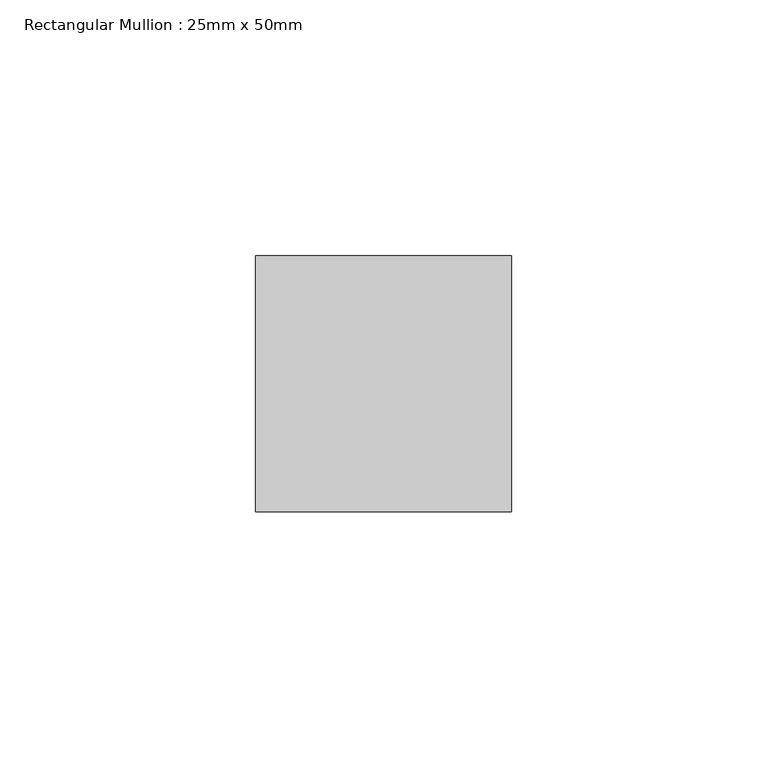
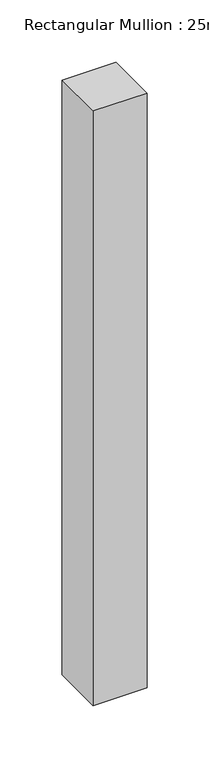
"""IFC4 building model written with IfcOpenShell, lengths in millimetres: member geometry, Rectangular Mullion : 25mm x 50mm."""

import ifcopenshell
import ifcopenshell.guid

model = None  # the IFC model being written
_history = None  # IfcOwnerHistory: only IFC2X3 demands one
_inside = {}  # id of a spatial element -> (the spatial element, [elements in it])
_under = {}  # id of a project, library or spatial element -> (it, [spatial elements below it])
_declared = {}  # id of a project -> (the project, [libraries it declares])
_typed = {}  # id of a type object -> (the type object, [elements of that type])
_made_of = {}  # id of a material, layer set ... -> (it, [elements and type objects made of it])


def new_model(schema):
    """Start an empty IFC model of exactly this schema.

    Asked for "IFC4X3", IfcOpenShell would pick the latest addendum, in which some entities
    have other attributes; the version numbers below select the first issue.
    IFC2X3 requires an IfcOwnerHistory on every rooted entity: one is made here for all.
    """
    global model, _history
    if schema == "IFC4X3":
        model = ifcopenshell.file(schema_version=(4, 3, 0, 0))
    else:
        model = ifcopenshell.file(schema=schema)
    _inside.clear()
    _under.clear()
    _declared.clear()
    _typed.clear()
    _made_of.clear()
    _history = None
    if model.schema == "IFC2X3":
        org = make("IfcOrganization", Name="unknown")
        user = make(
            "IfcPersonAndOrganization",
            ThePerson=make("IfcPerson", FamilyName="unknown"),
            TheOrganization=org,
        )
        app = make(
            "IfcApplication",
            ApplicationDeveloper=org,
            Version="unknown",
            ApplicationFullName="unknown",
            ApplicationIdentifier="unknown",
        )
        _history = make(
            "IfcOwnerHistory",
            OwningUser=user,
            OwningApplication=app,
            ChangeAction="ADDED",
            CreationDate=0,
        )
    return model


def make(cls, **values):
    """One entity of the class cls with the attributes given. An attribute that is None is left unset."""
    return model.create_entity(
        cls, **{name: value for name, value in values.items() if value is not None}
    )


def rooted(cls, **values):
    """An entity with a GlobalId (a new one), such as an element, a storey or a relation."""
    return make(cls, GlobalId=ifcopenshell.guid.new(), OwnerHistory=_history, **values)


def si_unit(unit_type, name, prefix=None):
    """IfcSIUnit, for example si_unit("LENGTHUNIT", "METRE", prefix="MILLI")."""
    return make("IfcSIUnit", UnitType=unit_type, Prefix=prefix, Name=name)


def assignment(units):
    """IfcUnitAssignment: the units of a project."""
    return None if units is None else make("IfcUnitAssignment", Units=units)


def point(xyz):
    """IfcCartesianPoint."""
    return None if xyz is None else make("IfcCartesianPoint", Coordinates=xyz)


def direction(xyz):
    """IfcDirection."""
    return None if xyz is None else make("IfcDirection", DirectionRatios=xyz)


def frame(location, z_axis=None, x_axis=None):
    """IfcAxis2Placement3D, a coordinate frame: its origin and axes. An axis left out is left unset."""
    return make(
        "IfcAxis2Placement3D",
        Location=point(location),
        Axis=direction(z_axis),
        RefDirection=direction(x_axis),
    )


def origin():
    """The frame at (0, 0, 0) with its axes left unset."""
    return frame((0.0, 0.0, 0.0))


def place(relative_to, where):
    """IfcLocalPlacement: puts the frame where relative to a parent placement (None: the world)."""
    return make(
        "IfcLocalPlacement", PlacementRelTo=relative_to, RelativePlacement=where
    )


def context(
    kind, dimensions, precision=None, world=None, true_north=None, identifier=None
):
    """IfcGeometricRepresentationContext, for example the 3D "Model" context."""
    return make(
        "IfcGeometricRepresentationContext",
        ContextIdentifier=identifier,
        ContextType=kind,
        CoordinateSpaceDimension=dimensions,
        Precision=precision,
        WorldCoordinateSystem=world,
        TrueNorth=true_north,
    )


def project(units=None, contexts=None):
    """IfcProject with its units and contexts."""
    return rooted(
        "IfcProject",
        Name="project",
        RepresentationContexts=contexts,
        UnitsInContext=assignment(units),
    )


def spatial(cls, under=None, at=None, **own):
    """A site, building, storey or space (cls), placed at a placement, below another one or the project."""
    s = rooted(cls, ObjectPlacement=at, **own)
    if under is not None:
        _under.setdefault(under.id(), (under, []))[1].append(s)
    return s


def polyline(points):
    """IfcPolyline through the points."""
    return make("IfcPolyline", Points=[point(p) for p in points])


def outline(outer, holes=None, kind="AREA"):
    """IfcArbitraryClosedProfileDef: a profile drawn as a closed curve; with holes, ...WithVoids."""
    if holes is None:
        return make("IfcArbitraryClosedProfileDef", ProfileType=kind, OuterCurve=outer)
    return make(
        "IfcArbitraryProfileDefWithVoids",
        ProfileType=kind,
        OuterCurve=outer,
        InnerCurves=holes,
    )


def extrude(swept, where, along, depth):
    """IfcExtrudedAreaSolid: the profile swept, set in the frame where, extruded along a direction by depth."""
    return make(
        "IfcExtrudedAreaSolid",
        SweptArea=swept,
        Position=where,
        ExtrudedDirection=direction(along),
        Depth=depth,
    )


def shape(context_of_items, identifier, shape_type, items):
    """IfcShapeRepresentation: the items that make up one representation, for example the "Body"."""
    return make(
        "IfcShapeRepresentation",
        ContextOfItems=context_of_items,
        RepresentationIdentifier=identifier,
        RepresentationType=shape_type,
        Items=items,
    )


def source(mapping_origin, context_of_items, identifier, shape_type, items):
    """IfcRepresentationMap: a shape defined once, which mapped items show again and again."""
    return make(
        "IfcRepresentationMap",
        MappingOrigin=mapping_origin,
        MappedRepresentation=shape(context_of_items, identifier, shape_type, items),
    )


def transform(
    local_origin,
    x_axis=None,
    y_axis=None,
    z_axis=None,
    scale=None,
    scale2=None,
    scale3=None,
    uniform=True,
):
    """IfcCartesianTransformationOperator3D, or its non-uniform kind. x_axis, y_axis, z_axis: its Axis1, 2, 3."""
    if uniform:
        return make(
            "IfcCartesianTransformationOperator3D",
            Axis1=direction(x_axis),
            Axis2=direction(y_axis),
            LocalOrigin=point(local_origin),
            Scale=scale,
            Axis3=direction(z_axis),
        )
    return make(
        "IfcCartesianTransformationOperator3DnonUniform",
        Axis1=direction(x_axis),
        Axis2=direction(y_axis),
        LocalOrigin=point(local_origin),
        Scale=scale,
        Axis3=direction(z_axis),
        Scale2=scale2,
        Scale3=scale3,
    )


def mapped(mapping_source, mapping_target):
    """IfcMappedItem: shows the shape of a source again, moved by a transform."""
    return make(
        "IfcMappedItem", MappingSource=mapping_source, MappingTarget=mapping_target
    )


def made_of(thing, what):
    """Note that an element or type object is made of a material, layer set ...; save() writes the relation."""
    if what is not None:
        _made_of.setdefault(what.id(), (what, []))[1].append(thing)
    return thing


def element(
    cls,
    number,
    at=None,
    inside=None,
    cuts=None,
    type_object=None,
    material=None,
    context=None,
    identifier="Body",
    shape_type=None,
    held_by="IfcProductDefinitionShape",
    body=None,
    shapes=None,
    **own,
):
    """One element of the class cls, such as IfcWall. Its Tag is "e" and its number.

    at: its placement. inside: the storey or other place that contains it. cuts: it is an
    opening in that element (IfcRelVoidsElement). A single representation is given by context,
    identifier, shape_type and body (its items); several are given by shapes. held_by: the class
    of the entity that holds the representations. save() writes the other relations.
    """
    e = rooted(cls, Tag="e%d" % number, ObjectPlacement=at, **own)
    if body is not None:
        shapes = [shape(context, identifier, shape_type, body)]
    if shapes is not None:
        e.Representation = make(held_by, Representations=shapes)
    if inside is not None:
        _inside.setdefault(inside.id(), (inside, []))[1].append(e)
    if cuts is not None:
        rooted(
            "IfcRelVoidsElement", RelatingBuildingElement=cuts, RelatedOpeningElement=e
        )
    if type_object is not None:
        _typed.setdefault(type_object.id(), (type_object, []))[1].append(e)
    return made_of(e, material)


def aggregate(whole, parts):
    """IfcRelAggregates: a whole, such as a stair, and the parts it consists of."""
    return rooted("IfcRelAggregates", RelatingObject=whole, RelatedObjects=parts)


def save(model, path):
    """Write the relations noted so far, then the file.

    IfcRelAggregates (storeys below a building ...), IfcRelContainedInSpatialStructure (elements
    in a storey), IfcRelDefinesByType, IfcRelAssociatesMaterial and IfcRelDeclares: one each for
    every whole, place, type object, material and project.
    """
    for whole, parts in _under.values():
        aggregate(whole, parts)
    for where, things in _inside.values():
        rooted(
            "IfcRelContainedInSpatialStructure",
            RelatedElements=things,
            RelatingStructure=where,
        )
    for kind, things in _typed.values():
        rooted("IfcRelDefinesByType", RelatedObjects=things, RelatingType=kind)
    for what, things in _made_of.values():
        rooted("IfcRelAssociatesMaterial", RelatedObjects=things, RelatingMaterial=what)
    for by, libraries in _declared.values():
        rooted("IfcRelDeclares", RelatingContext=by, RelatedDefinitions=libraries)
    model.write(path)


def rectangular_mullion_25mm_x_50mm_bba106a0(model_context):
    return source(origin(), model_context, "Body", "SweptSolid", [
        extrude(outline(polyline([(0.0, 25.0), (0.0, -25.0), (-50.0, -25.0), (-50.0, 25.0), (0.0, 25.0)])), frame((0.0, 0.0, -583.3677047), z_axis=(0.0, 0.0, 1.0), x_axis=(1.0, 0.0, 0.0)), (0.0, 0.0, 1.0), 583.3677047),
    ])


if __name__ == "__main__":
    model = new_model("IFC4")
    model_context = context("Model", 3, world=origin())
    ifc_project = project(units=[si_unit("LENGTHUNIT", "METRE", prefix="MILLI")], contexts=[model_context])
    site = spatial("IfcSite", under=ifc_project)
    building = spatial("IfcBuilding", under=site)
    placement = place(None, origin())
    rectangular_mullion_25mm_x_50mm_shape = rectangular_mullion_25mm_x_50mm_bba106a0(model_context)
    element("IfcMember", 1, ObjectType="Rectangular Mullion : 25mm x 50mm", at=placement, inside=building, context=model_context, shape_type="MappedRepresentation", body=[
        mapped(rectangular_mullion_25mm_x_50mm_shape, transform((0.0, 0.0, 0.0), x_axis=(1.0, 0.0, 0.0), y_axis=(0.0, 1.0, 0.0), z_axis=(0.0, 0.0, 1.0))),
    ])
    save(model, "model.ifc")
